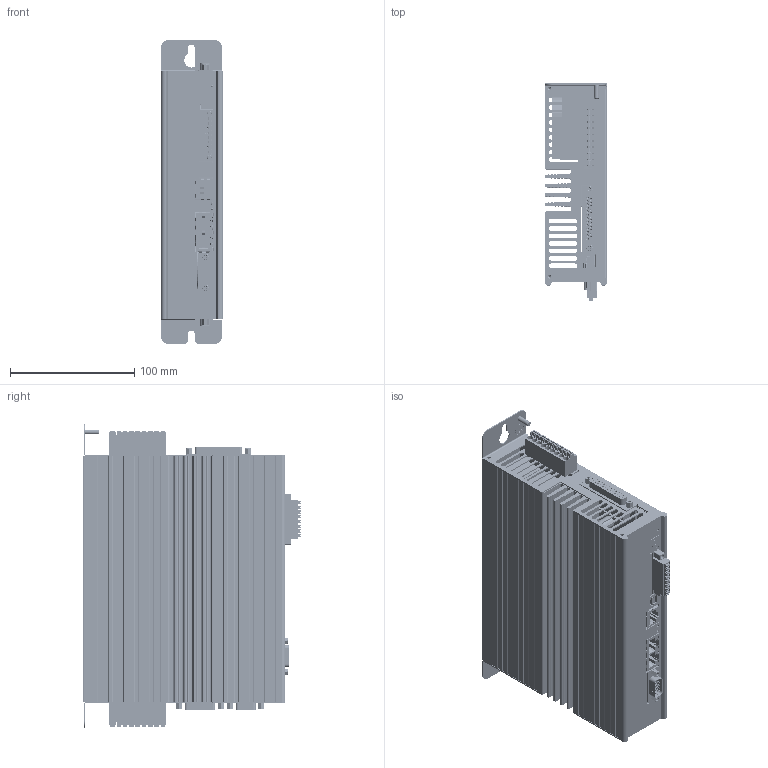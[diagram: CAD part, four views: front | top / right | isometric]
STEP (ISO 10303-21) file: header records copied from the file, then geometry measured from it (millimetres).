
FILE_DESCRIPTION(('STEP AP214'),'1');
FILE_NAME('D:/Subversion/BasicLine_PROJ/HW/MECHANIK/Komplettgeräte/Komplettgerät_BL4100C_1p0_Doku.stp','2019-03-01T09:37:04',(''),(''),'Spatial InterOp 3D',' ',' ');
FILE_SCHEMA(('automotive_design'));
Length unit declared in the file: inch
Products named in the file (614): ACIS-VolumenkÃ¶rper_807; ACIS-VolumenkÃ¶rper_829; ACIS-VolumenkÃ¶rper_843; ACIS-VolumenkÃ¶rper_857; ACIS-VolumenkÃ¶rper_871; ACIS-VolumenkÃ¶rper_877; ACIS-VolumenkÃ¶rper_891; ACIS-VolumenkÃ¶rper_905; ACIS-VolumenkÃ¶rper_919; ACIS-VolumenkÃ¶rper_933; ACIS-VolumenkÃ¶rper_947; ACIS-VolumenkÃ¶rper_961; ACIS-VolumenkÃ¶rper_975; ACIS-VolumenkÃ¶rper_981; ACIS-VolumenkÃ¶rper_987; ACIS-VolumenkÃ¶rper_993; ACIS-VolumenkÃ¶rper_1013; ACIS-VolumenkÃ¶rper_1027; ACIS-VolumenkÃ¶rper_1033; ACIS-VolumenkÃ¶rper_1039; ACIS-VolumenkÃ¶rper_1053; ACIS-VolumenkÃ¶rper_1067; ACIS-VolumenkÃ¶rper_1091; ACIS-VolumenkÃ¶rper_1105; ACIS-VolumenkÃ¶rper_1121; ACIS-VolumenkÃ¶rper_1135; ACIS-VolumenkÃ¶rper_1149; ACIS-VolumenkÃ¶rper_1163; ACIS-VolumenkÃ¶rper_1177; ACIS-VolumenkÃ¶rper_1191; ACIS-VolumenkÃ¶rper_1205; ACIS-VolumenkÃ¶rper_1219; ACIS-VolumenkÃ¶rper_1233; ACIS-VolumenkÃ¶rper_1247; ACIS-VolumenkÃ¶rper_1261; ACIS-VolumenkÃ¶rper_1275; ACIS-VolumenkÃ¶rper_1289; ACIS-VolumenkÃ¶rper_1303; ACIS-VolumenkÃ¶rper_1317; ACIS-VolumenkÃ¶rper_1331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
Bounding box: 50 x 175.4 x 245 mm (x, y, z)
Volume: 597186 mm3; surface area: 430824.6 mm2
Topology: 106 solids, 619 shells, 9969 faces, 28536 edges, 19823 vertices
Faces by surface type: plane 6736, cylinder 1847, bspline 905, cone 418, torus 50, sphere 13
Full cylindrical faces by diameter (mm): 0.44 x5, 0.46 x10, 0.76 x10, 0.85 x10, 1.1 x20, 1.28 x5, 1.305 x5, 1.34 x10, 1.5 x2, 2.5 x7
Entity records: 448658 total; most frequent: CARTESIAN_POINT 95083, ORIENTED_EDGE 53549, DIRECTION 51211, EDGE_CURVE 28166, LINE 20933, VECTOR 20933, VERTEX_POINT 19595, AXIS2_PLACEMENT_3D 15139
